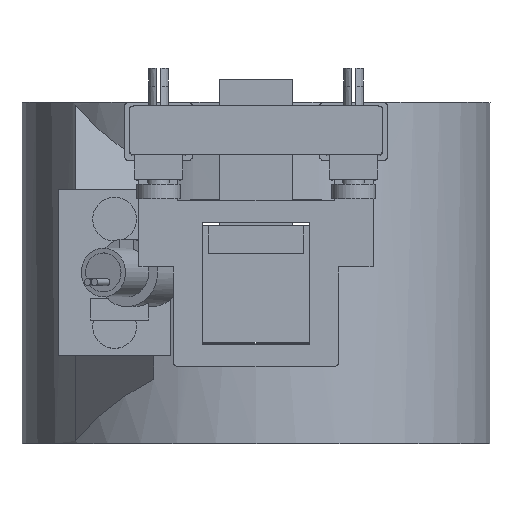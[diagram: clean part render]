
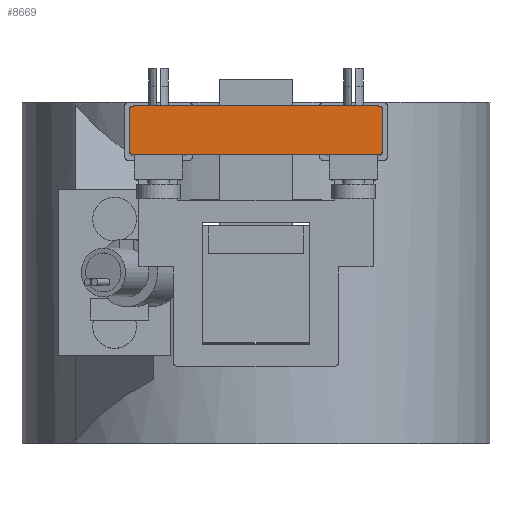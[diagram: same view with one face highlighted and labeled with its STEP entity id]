
A CAD part, top view. The second image highlights one B-rep face of the part: STEP entity #8669.
In plain terms, the highlighted planar face has unit normal (0, 0, 1).
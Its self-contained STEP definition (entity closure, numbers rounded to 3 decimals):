
#6749 = PLANE('',#6750);
#6750 = AXIS2_PLACEMENT_3D('',#6751,#6752,#6753);
#6751 = CARTESIAN_POINT('',(-26.,24.,52.));
#6752 = DIRECTION('',(1.,0.,0.));
#6753 = DIRECTION('',(0.,0.,1.));
#6886 = VERTEX_POINT('',#6887);
#6887 = CARTESIAN_POINT('',(-26.,33.,176.93));
#6901 = CYLINDRICAL_SURFACE('',#6902,1.);
#6902 = AXIS2_PLACEMENT_3D('',#6903,#6904,#6905);
#6903 = CARTESIAN_POINT('',(-25.,33.,168.93));
#6904 = DIRECTION('',(0.,0.,1.));
#6905 = DIRECTION('',(-1.,-0.,0.));
#6913 = EDGE_CURVE('',#6914,#6886,#6916,.T.);
#6914 = VERTEX_POINT('',#6915);
#6915 = CARTESIAN_POINT('',(-26.,25.,176.93));
#6916 = SURFACE_CURVE('',#6917,(#6921,#6928),.PCURVE_S1.);
#6917 = LINE('',#6918,#6919);
#6918 = CARTESIAN_POINT('',(-26.,24.,176.93));
#6919 = VECTOR('',#6920,1.);
#6920 = DIRECTION('',(0.,1.,0.));
#6921 = PCURVE('',#6749,#6922);
#6922 = DEFINITIONAL_REPRESENTATION('',(#6923),#6927);
#6923 = LINE('',#6924,#6925);
#6924 = CARTESIAN_POINT('',(124.93,0.));
#6925 = VECTOR('',#6926,1.);
#6926 = DIRECTION('',(0.,-1.));
#6927 = ( GEOMETRIC_REPRESENTATION_CONTEXT(2) 
PARAMETRIC_REPRESENTATION_CONTEXT() REPRESENTATION_CONTEXT('2D SPACE',''
  ) );
#6928 = PCURVE('',#6929,#6934);
#6929 = PLANE('',#6930);
#6930 = AXIS2_PLACEMENT_3D('',#6931,#6932,#6933);
#6931 = CARTESIAN_POINT('',(-26.,24.,176.93));
#6932 = DIRECTION('',(0.,0.,1.));
#6933 = DIRECTION('',(1.,0.,0.));
#6934 = DEFINITIONAL_REPRESENTATION('',(#6935),#6939);
#6935 = LINE('',#6936,#6937);
#6936 = CARTESIAN_POINT('',(0.,0.));
#6937 = VECTOR('',#6938,1.);
#6938 = DIRECTION('',(0.,1.));
#6939 = ( GEOMETRIC_REPRESENTATION_CONTEXT(2) 
PARAMETRIC_REPRESENTATION_CONTEXT() REPRESENTATION_CONTEXT('2D SPACE',''
  ) );
#6955 = CYLINDRICAL_SURFACE('',#6956,1.);
#6956 = AXIS2_PLACEMENT_3D('',#6957,#6958,#6959);
#6957 = CARTESIAN_POINT('',(-25.,25.,168.93));
#6958 = DIRECTION('',(0.,0.,1.));
#6959 = DIRECTION('',(-1.,-0.,0.));
#7011 = PLANE('',#7012);
#7012 = AXIS2_PLACEMENT_3D('',#7013,#7014,#7015);
#7013 = CARTESIAN_POINT('',(-26.,24.,52.));
#7014 = DIRECTION('',(0.,1.,0.));
#7015 = DIRECTION('',(0.,0.,1.));
#7089 = PLANE('',#7090);
#7090 = AXIS2_PLACEMENT_3D('',#7091,#7092,#7093);
#7091 = CARTESIAN_POINT('',(-26.,34.,52.));
#7092 = DIRECTION('',(0.,1.,0.));
#7093 = DIRECTION('',(0.,0.,1.));
#7484 = VERTEX_POINT('',#7485);
#7485 = CARTESIAN_POINT('',(-25.,24.,176.93));
#7506 = EDGE_CURVE('',#6914,#7484,#7507,.T.);
#7507 = SURFACE_CURVE('',#7508,(#7513,#7520),.PCURVE_S1.);
#7508 = CIRCLE('',#7509,1.);
#7509 = AXIS2_PLACEMENT_3D('',#7510,#7511,#7512);
#7510 = CARTESIAN_POINT('',(-25.,25.,176.93));
#7511 = DIRECTION('',(0.,0.,1.));
#7512 = DIRECTION('',(0.,-1.,0.));
#7513 = PCURVE('',#6955,#7514);
#7514 = DEFINITIONAL_REPRESENTATION('',(#7515),#7519);
#7515 = LINE('',#7516,#7517);
#7516 = CARTESIAN_POINT('',(-4.712,8.));
#7517 = VECTOR('',#7518,1.);
#7518 = DIRECTION('',(1.,0.));
#7519 = ( GEOMETRIC_REPRESENTATION_CONTEXT(2) 
PARAMETRIC_REPRESENTATION_CONTEXT() REPRESENTATION_CONTEXT('2D SPACE',''
  ) );
#7520 = PCURVE('',#6929,#7521);
#7521 = DEFINITIONAL_REPRESENTATION('',(#7522),#7526);
#7522 = CIRCLE('',#7523,1.);
#7523 = AXIS2_PLACEMENT_2D('',#7524,#7525);
#7524 = CARTESIAN_POINT('',(1.,1.));
#7525 = DIRECTION('',(0.,-1.));
#7526 = ( GEOMETRIC_REPRESENTATION_CONTEXT(2) 
PARAMETRIC_REPRESENTATION_CONTEXT() REPRESENTATION_CONTEXT('2D SPACE',''
  ) );
#7535 = EDGE_CURVE('',#7484,#7536,#7538,.T.);
#7536 = VERTEX_POINT('',#7537);
#7537 = CARTESIAN_POINT('',(25.,24.,176.93));
#7538 = SURFACE_CURVE('',#7539,(#7543,#7550),.PCURVE_S1.);
#7539 = LINE('',#7540,#7541);
#7540 = CARTESIAN_POINT('',(-26.,24.,176.93));
#7541 = VECTOR('',#7542,1.);
#7542 = DIRECTION('',(1.,0.,0.));
#7543 = PCURVE('',#7011,#7544);
#7544 = DEFINITIONAL_REPRESENTATION('',(#7545),#7549);
#7545 = LINE('',#7546,#7547);
#7546 = CARTESIAN_POINT('',(124.93,0.));
#7547 = VECTOR('',#7548,1.);
#7548 = DIRECTION('',(0.,1.));
#7549 = ( GEOMETRIC_REPRESENTATION_CONTEXT(2) 
PARAMETRIC_REPRESENTATION_CONTEXT() REPRESENTATION_CONTEXT('2D SPACE',''
  ) );
#7550 = PCURVE('',#6929,#7551);
#7551 = DEFINITIONAL_REPRESENTATION('',(#7552),#7556);
#7552 = LINE('',#7553,#7554);
#7553 = CARTESIAN_POINT('',(0.,0.));
#7554 = VECTOR('',#7555,1.);
#7555 = DIRECTION('',(1.,0.));
#7556 = ( GEOMETRIC_REPRESENTATION_CONTEXT(2) 
PARAMETRIC_REPRESENTATION_CONTEXT() REPRESENTATION_CONTEXT('2D SPACE',''
  ) );
#7574 = CYLINDRICAL_SURFACE('',#7575,1.);
#7575 = AXIS2_PLACEMENT_3D('',#7576,#7577,#7578);
#7576 = CARTESIAN_POINT('',(25.,25.,168.93));
#7577 = DIRECTION('',(0.,0.,1.));
#7578 = DIRECTION('',(1.,0.,-0.));
#8074 = VERTEX_POINT('',#8075);
#8075 = CARTESIAN_POINT('',(-25.,34.,176.93));
#8096 = EDGE_CURVE('',#8074,#8097,#8099,.T.);
#8097 = VERTEX_POINT('',#8098);
#8098 = CARTESIAN_POINT('',(25.,34.,176.93));
#8099 = SURFACE_CURVE('',#8100,(#8104,#8111),.PCURVE_S1.);
#8100 = LINE('',#8101,#8102);
#8101 = CARTESIAN_POINT('',(-26.,34.,176.93));
#8102 = VECTOR('',#8103,1.);
#8103 = DIRECTION('',(1.,0.,0.));
#8104 = PCURVE('',#7089,#8105);
#8105 = DEFINITIONAL_REPRESENTATION('',(#8106),#8110);
#8106 = LINE('',#8107,#8108);
#8107 = CARTESIAN_POINT('',(124.93,0.));
#8108 = VECTOR('',#8109,1.);
#8109 = DIRECTION('',(0.,1.));
#8110 = ( GEOMETRIC_REPRESENTATION_CONTEXT(2) 
PARAMETRIC_REPRESENTATION_CONTEXT() REPRESENTATION_CONTEXT('2D SPACE',''
  ) );
#8111 = PCURVE('',#6929,#8112);
#8112 = DEFINITIONAL_REPRESENTATION('',(#8113),#8117);
#8113 = LINE('',#8114,#8115);
#8114 = CARTESIAN_POINT('',(0.,10.));
#8115 = VECTOR('',#8116,1.);
#8116 = DIRECTION('',(1.,0.));
#8117 = ( GEOMETRIC_REPRESENTATION_CONTEXT(2) 
PARAMETRIC_REPRESENTATION_CONTEXT() REPRESENTATION_CONTEXT('2D SPACE',''
  ) );
#8135 = CYLINDRICAL_SURFACE('',#8136,1.);
#8136 = AXIS2_PLACEMENT_3D('',#8137,#8138,#8139);
#8137 = CARTESIAN_POINT('',(25.,33.,168.93));
#8138 = DIRECTION('',(0.,0.,1.));
#8139 = DIRECTION('',(1.,0.,-0.));
#8364 = EDGE_CURVE('',#6886,#8074,#8365,.T.);
#8365 = SURFACE_CURVE('',#8366,(#8371,#8378),.PCURVE_S1.);
#8366 = CIRCLE('',#8367,1.);
#8367 = AXIS2_PLACEMENT_3D('',#8368,#8369,#8370);
#8368 = CARTESIAN_POINT('',(-25.,33.,176.93));
#8369 = DIRECTION('',(-0.,-0.,-1.));
#8370 = DIRECTION('',(0.,-1.,0.));
#8371 = PCURVE('',#6901,#8372);
#8372 = DEFINITIONAL_REPRESENTATION('',(#8373),#8377);
#8373 = LINE('',#8374,#8375);
#8374 = CARTESIAN_POINT('',(1.571,8.));
#8375 = VECTOR('',#8376,1.);
#8376 = DIRECTION('',(-1.,0.));
#8377 = ( GEOMETRIC_REPRESENTATION_CONTEXT(2) 
PARAMETRIC_REPRESENTATION_CONTEXT() REPRESENTATION_CONTEXT('2D SPACE',''
  ) );
#8378 = PCURVE('',#6929,#8379);
#8379 = DEFINITIONAL_REPRESENTATION('',(#8380),#8388);
#8380 = ( BOUNDED_CURVE() B_SPLINE_CURVE(2,(#8381,#8382,#8383,#8384,
#8385,#8386,#8387),.UNSPECIFIED.,.T.,.F.) B_SPLINE_CURVE_WITH_KNOTS((1,2
    ,2,2,2,1),(-2.094,0.,2.094,4.189,
6.283,8.378),.UNSPECIFIED.) CURVE() 
GEOMETRIC_REPRESENTATION_ITEM() RATIONAL_B_SPLINE_CURVE((1.,0.5,1.,0.5,
1.,0.5,1.)) REPRESENTATION_ITEM('') );
#8381 = CARTESIAN_POINT('',(1.,8.));
#8382 = CARTESIAN_POINT('',(-0.732,8.));
#8383 = CARTESIAN_POINT('',(0.134,9.5));
#8384 = CARTESIAN_POINT('',(1.,11.));
#8385 = CARTESIAN_POINT('',(1.866,9.5));
#8386 = CARTESIAN_POINT('',(2.732,8.));
#8387 = CARTESIAN_POINT('',(1.,8.));
#8388 = ( GEOMETRIC_REPRESENTATION_CONTEXT(2) 
PARAMETRIC_REPRESENTATION_CONTEXT() REPRESENTATION_CONTEXT('2D SPACE',''
  ) );
#8669 = ADVANCED_FACE('',(#8670),#6929,.T.);
#8670 = FACE_BOUND('',#8671,.T.);
#8671 = EDGE_LOOP('',(#8672,#8673,#8674,#8675,#8703,#8731,#8753,#8754));
#8672 = ORIENTED_EDGE('',*,*,#6913,.F.);
#8673 = ORIENTED_EDGE('',*,*,#7506,.T.);
#8674 = ORIENTED_EDGE('',*,*,#7535,.T.);
#8675 = ORIENTED_EDGE('',*,*,#8676,.F.);
#8676 = EDGE_CURVE('',#8677,#7536,#8679,.T.);
#8677 = VERTEX_POINT('',#8678);
#8678 = CARTESIAN_POINT('',(26.,25.,176.93));
#8679 = SURFACE_CURVE('',#8680,(#8685,#8696),.PCURVE_S1.);
#8680 = CIRCLE('',#8681,1.);
#8681 = AXIS2_PLACEMENT_3D('',#8682,#8683,#8684);
#8682 = CARTESIAN_POINT('',(25.,25.,176.93));
#8683 = DIRECTION('',(-0.,-0.,-1.));
#8684 = DIRECTION('',(0.,-1.,0.));
#8685 = PCURVE('',#6929,#8686);
#8686 = DEFINITIONAL_REPRESENTATION('',(#8687),#8695);
#8687 = ( BOUNDED_CURVE() B_SPLINE_CURVE(2,(#8688,#8689,#8690,#8691,
#8692,#8693,#8694),.UNSPECIFIED.,.T.,.F.) B_SPLINE_CURVE_WITH_KNOTS((1,2
    ,2,2,2,1),(-2.094,0.,2.094,4.189,
6.283,8.378),.UNSPECIFIED.) CURVE() 
GEOMETRIC_REPRESENTATION_ITEM() RATIONAL_B_SPLINE_CURVE((1.,0.5,1.,0.5,
1.,0.5,1.)) REPRESENTATION_ITEM('') );
#8688 = CARTESIAN_POINT('',(51.,0.));
#8689 = CARTESIAN_POINT('',(49.268,0.));
#8690 = CARTESIAN_POINT('',(50.134,1.5));
#8691 = CARTESIAN_POINT('',(51.,3.));
#8692 = CARTESIAN_POINT('',(51.866,1.5));
#8693 = CARTESIAN_POINT('',(52.732,0.));
#8694 = CARTESIAN_POINT('',(51.,0.));
#8695 = ( GEOMETRIC_REPRESENTATION_CONTEXT(2) 
PARAMETRIC_REPRESENTATION_CONTEXT() REPRESENTATION_CONTEXT('2D SPACE',''
  ) );
#8696 = PCURVE('',#7574,#8697);
#8697 = DEFINITIONAL_REPRESENTATION('',(#8698),#8702);
#8698 = LINE('',#8699,#8700);
#8699 = CARTESIAN_POINT('',(4.712,8.));
#8700 = VECTOR('',#8701,1.);
#8701 = DIRECTION('',(-1.,0.));
#8702 = ( GEOMETRIC_REPRESENTATION_CONTEXT(2) 
PARAMETRIC_REPRESENTATION_CONTEXT() REPRESENTATION_CONTEXT('2D SPACE',''
  ) );
#8703 = ORIENTED_EDGE('',*,*,#8704,.T.);
#8704 = EDGE_CURVE('',#8677,#8705,#8707,.T.);
#8705 = VERTEX_POINT('',#8706);
#8706 = CARTESIAN_POINT('',(26.,33.,176.93));
#8707 = SURFACE_CURVE('',#8708,(#8712,#8719),.PCURVE_S1.);
#8708 = LINE('',#8709,#8710);
#8709 = CARTESIAN_POINT('',(26.,24.,176.93));
#8710 = VECTOR('',#8711,1.);
#8711 = DIRECTION('',(0.,1.,0.));
#8712 = PCURVE('',#6929,#8713);
#8713 = DEFINITIONAL_REPRESENTATION('',(#8714),#8718);
#8714 = LINE('',#8715,#8716);
#8715 = CARTESIAN_POINT('',(52.,0.));
#8716 = VECTOR('',#8717,1.);
#8717 = DIRECTION('',(0.,1.));
#8718 = ( GEOMETRIC_REPRESENTATION_CONTEXT(2) 
PARAMETRIC_REPRESENTATION_CONTEXT() REPRESENTATION_CONTEXT('2D SPACE',''
  ) );
#8719 = PCURVE('',#8720,#8725);
#8720 = PLANE('',#8721);
#8721 = AXIS2_PLACEMENT_3D('',#8722,#8723,#8724);
#8722 = CARTESIAN_POINT('',(26.,24.,168.93));
#8723 = DIRECTION('',(1.,0.,0.));
#8724 = DIRECTION('',(0.,0.,1.));
#8725 = DEFINITIONAL_REPRESENTATION('',(#8726),#8730);
#8726 = LINE('',#8727,#8728);
#8727 = CARTESIAN_POINT('',(8.,0.));
#8728 = VECTOR('',#8729,1.);
#8729 = DIRECTION('',(0.,-1.));
#8730 = ( GEOMETRIC_REPRESENTATION_CONTEXT(2) 
PARAMETRIC_REPRESENTATION_CONTEXT() REPRESENTATION_CONTEXT('2D SPACE',''
  ) );
#8731 = ORIENTED_EDGE('',*,*,#8732,.T.);
#8732 = EDGE_CURVE('',#8705,#8097,#8733,.T.);
#8733 = SURFACE_CURVE('',#8734,(#8739,#8746),.PCURVE_S1.);
#8734 = CIRCLE('',#8735,1.);
#8735 = AXIS2_PLACEMENT_3D('',#8736,#8737,#8738);
#8736 = CARTESIAN_POINT('',(25.,33.,176.93));
#8737 = DIRECTION('',(0.,0.,1.));
#8738 = DIRECTION('',(0.,-1.,0.));
#8739 = PCURVE('',#6929,#8740);
#8740 = DEFINITIONAL_REPRESENTATION('',(#8741),#8745);
#8741 = CIRCLE('',#8742,1.);
#8742 = AXIS2_PLACEMENT_2D('',#8743,#8744);
#8743 = CARTESIAN_POINT('',(51.,9.));
#8744 = DIRECTION('',(0.,-1.));
#8745 = ( GEOMETRIC_REPRESENTATION_CONTEXT(2) 
PARAMETRIC_REPRESENTATION_CONTEXT() REPRESENTATION_CONTEXT('2D SPACE',''
  ) );
#8746 = PCURVE('',#8135,#8747);
#8747 = DEFINITIONAL_REPRESENTATION('',(#8748),#8752);
#8748 = LINE('',#8749,#8750);
#8749 = CARTESIAN_POINT('',(-1.571,8.));
#8750 = VECTOR('',#8751,1.);
#8751 = DIRECTION('',(1.,0.));
#8752 = ( GEOMETRIC_REPRESENTATION_CONTEXT(2) 
PARAMETRIC_REPRESENTATION_CONTEXT() REPRESENTATION_CONTEXT('2D SPACE',''
  ) );
#8753 = ORIENTED_EDGE('',*,*,#8096,.F.);
#8754 = ORIENTED_EDGE('',*,*,#8364,.F.);
